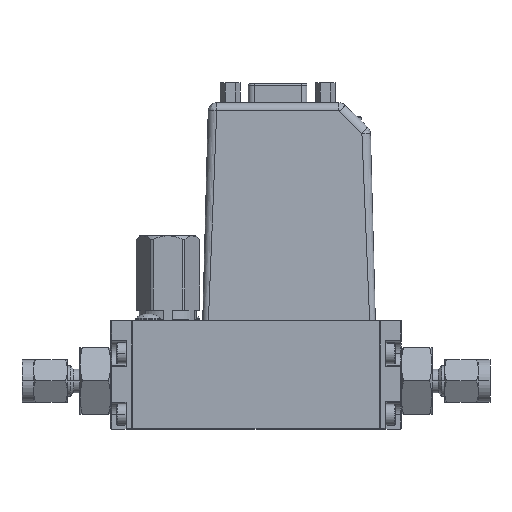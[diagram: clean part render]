
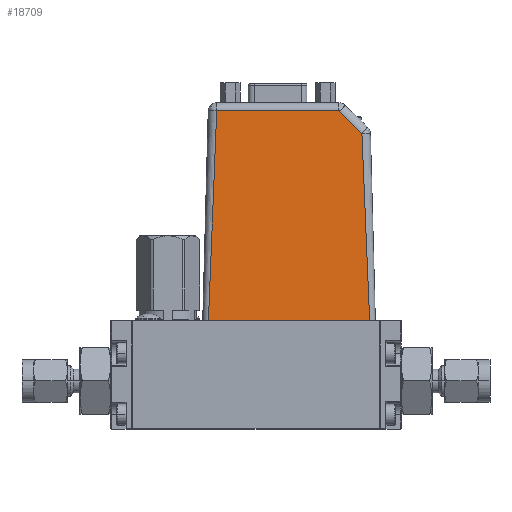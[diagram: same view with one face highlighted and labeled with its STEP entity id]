
A CAD part, top view. The second image highlights one B-rep face of the part: STEP entity #18709.
In plain terms, the highlighted planar face has unit normal (0, 0.026, 1).
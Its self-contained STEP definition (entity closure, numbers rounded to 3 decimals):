
#86 = VERTEX_POINT ( 'NONE', #14509 ) ;
#1442 = CARTESIAN_POINT ( 'NONE',  ( 10.684, 0., 12.4 ) ) ;
#2155 = B_SPLINE_CURVE_WITH_KNOTS ( 'NONE', 3,
 ( #15646, #32318, #12828, #35123 ),
 .UNSPECIFIED., .F., .F.,
 ( 4, 4 ),
 ( 0.4, 0.588 ),
 .UNSPECIFIED. ) ;
#2574 = B_SPLINE_CURVE_WITH_KNOTS ( 'NONE', 3,
 ( #15248, #12310, #18033, #1442 ),
 .UNSPECIFIED., .F., .F.,
 ( 4, 4 ),
 ( 0.407, 0.6 ),
 .UNSPECIFIED. ) ;
#2613 = CARTESIAN_POINT ( 'NONE',  ( 54.6, 0., 12.4 ) ) ;
#2825 = EDGE_CURVE ( 'NONE', #3806, #35049, #2155, .T. ) ;
#3407 = DIRECTION ( 'NONE',  ( -1., 0., 0. ) ) ;
#3806 = VERTEX_POINT ( 'NONE', #17496 ) ;
#5200 = CARTESIAN_POINT ( 'NONE',  ( 45.099, 55.038, 10.959 ) ) ;
#6082 = EDGE_CURVE ( 'NONE', #24732, #27203, #33223, .T. ) ;
#7393 = VECTOR ( 'NONE', #19224, 1000. ) ;
#7961 = DIRECTION ( 'NONE',  ( -0.716, 0.698, -0.018 ) ) ;
#8007 = CARTESIAN_POINT ( 'NONE',  ( 54.6, 0., 12.4 ) ) ;
#8970 = CARTESIAN_POINT ( 'NONE',  ( 54.6, 55.058, 10.958 ) ) ;
#10400 = LINE ( 'NONE', #21663, #24335 ) ;
#10786 = DIRECTION ( 'NONE',  ( 0., 0.026, 1. ) ) ;
#10992 = VECTOR ( 'NONE', #3407, 1000. ) ;
#11593 = CARTESIAN_POINT ( 'NONE',  ( 44.997, 55.058, 10.958 ) ) ;
#12310 = CARTESIAN_POINT ( 'NONE',  ( 12.341, 36.7, 11.439 ) ) ;
#12828 = CARTESIAN_POINT ( 'NONE',  ( 51.515, 32.813, 11.541 ) ) ;
#13541 = CARTESIAN_POINT ( 'NONE',  ( 44.997, 55.058, 10.958 ) ) ;
#14157 = VERTEX_POINT ( 'NONE', #16077 ) ;
#14390 =( BOUNDED_CURVE ( )  B_SPLINE_CURVE ( 3, ( #32781, #5200, #30204, #13541 ),
 .UNSPECIFIED., .F., .F. ) 
 B_SPLINE_CURVE_WITH_KNOTS ( ( 4, 4 ),
 ( 5.511, 6.283 ),
 .UNSPECIFIED. ) 
 CURVE ( )  GEOMETRIC_REPRESENTATION_ITEM ( )  RATIONAL_B_SPLINE_CURVE ( ( 1., 0.951, 0.951, 1. ) ) 
 REPRESENTATION_ITEM ( '' )  );
#14509 = CARTESIAN_POINT ( 'NONE',  ( 45.137, 55.001, 10.96 ) ) ;
#15248 = CARTESIAN_POINT ( 'NONE',  ( 12.872, 55.058, 10.958 ) ) ;
#15646 = CARTESIAN_POINT ( 'NONE',  ( 53.101, 0., 12.4 ) ) ;
#15917 = ORIENTED_EDGE ( 'NONE', *, *, #24901, .T. ) ;
#16077 = CARTESIAN_POINT ( 'NONE',  ( 10.684, 0., 12.4 ) ) ;
#16599 = ORIENTED_EDGE ( 'NONE', *, *, #28286, .T. ) ;
#17182 = EDGE_CURVE ( 'NONE', #86, #24732, #14390, .T. ) ;
#17496 = CARTESIAN_POINT ( 'NONE',  ( 53.101, 0., 12.4 ) ) ;
#18033 = CARTESIAN_POINT ( 'NONE',  ( 11.165, 18.359, 11.919 ) ) ;
#18709 = ADVANCED_FACE ( 'NONE', ( #33661 ), #24650, .T. ) ;
#18872 = ORIENTED_EDGE ( 'NONE', *, *, #2825, .T. ) ;
#19224 = DIRECTION ( 'NONE',  ( -1., 0., 0. ) ) ;
#20826 = ORIENTED_EDGE ( 'NONE', *, *, #6082, .T. ) ;
#21164 = ORIENTED_EDGE ( 'NONE', *, *, #26811, .F. ) ;
#21663 = CARTESIAN_POINT ( 'NONE',  ( 77.491, 23.479, 11.785 ) ) ;
#22143 = AXIS2_PLACEMENT_3D ( 'NONE', #8007, #10786, #30250 ) ;
#22206 = EDGE_LOOP ( 'NONE', ( #18872, #16599, #22918, #20826, #15917, #21164 ) ) ;
#22918 = ORIENTED_EDGE ( 'NONE', *, *, #17182, .T. ) ;
#24335 = VECTOR ( 'NONE', #7961, 1000. ) ;
#24650 = PLANE ( 'NONE',  #22143 ) ;
#24732 = VERTEX_POINT ( 'NONE', #11593 ) ;
#24901 = EDGE_CURVE ( 'NONE', #27203, #14157, #2574, .T. ) ;
#26811 = EDGE_CURVE ( 'NONE', #3806, #14157, #30429, .T. ) ;
#27203 = VERTEX_POINT ( 'NONE', #35285 ) ;
#28286 = EDGE_CURVE ( 'NONE', #35049, #86, #10400, .T. ) ;
#30204 = CARTESIAN_POINT ( 'NONE',  ( 45.05, 55.058, 10.958 ) ) ;
#30250 = DIRECTION ( 'NONE',  ( 0., 1., -0.026 ) ) ;
#30429 = LINE ( 'NONE', #2613, #7393 ) ;
#31701 = CARTESIAN_POINT ( 'NONE',  ( 51.062, 49.228, 11.111 ) ) ;
#32318 = CARTESIAN_POINT ( 'NONE',  ( 52.669, 16.416, 11.97 ) ) ;
#32781 = CARTESIAN_POINT ( 'NONE',  ( 45.137, 55.001, 10.96 ) ) ;
#33223 = LINE ( 'NONE', #8970, #10992 ) ;
#33661 = FACE_OUTER_BOUND ( 'NONE', #22206, .T. ) ;
#35049 = VERTEX_POINT ( 'NONE', #31701 ) ;
#35123 = CARTESIAN_POINT ( 'NONE',  ( 51.062, 49.228, 11.111 ) ) ;
#35285 = CARTESIAN_POINT ( 'NONE',  ( 12.872, 55.058, 10.958 ) ) ;
